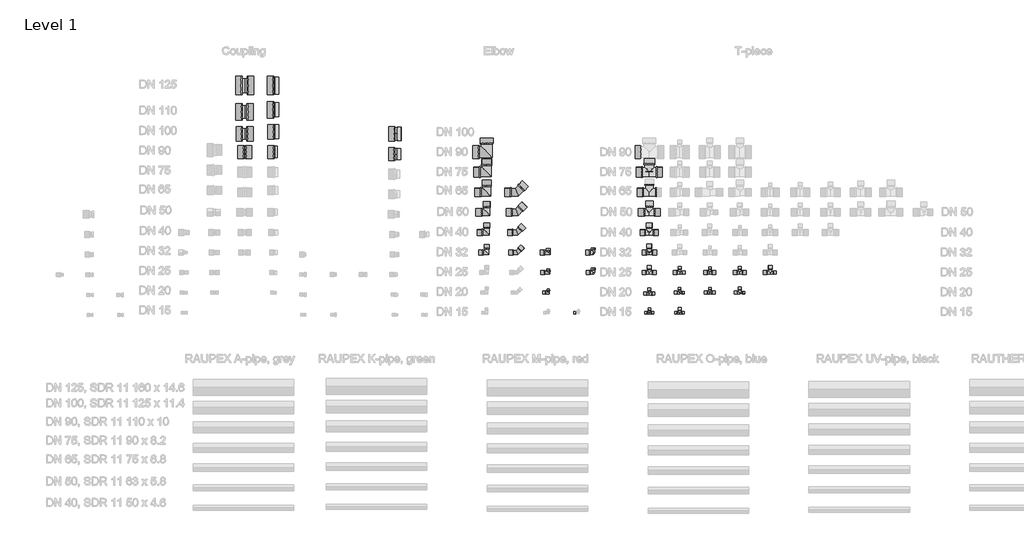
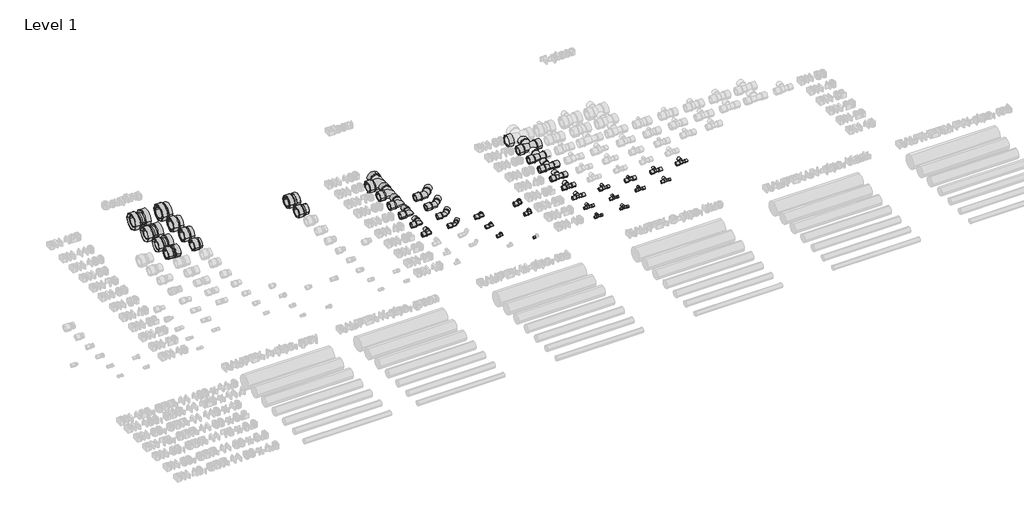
# One storey, part 4 of 16: 128 pipe fittings.
"""IFC4 building model written with IfcOpenShell, lengths in millimetres."""

from ifc_helpers import new_model, si_unit, origin, place, context, project, spatial, transform, mapped, element, save
from components import pipe_fitting_73d6fd9a, pipe_fitting_202b08bc, pipe_fitting_dee27855, pipe_fitting_80c25c59, coupling_union_655df743, coupling_union_132477e5, coupling_union_b98a8659, coupling_union_d5728b00, elbow_sdr11_lx_elbow_sdr_11_lx_b8bc8752, elbow_sdr11_lx_elbow_sdr_11_lx_6126e5dd, elbow_sdr11_lx_elbow_sdr_11_lx_f17d2660, elbow_sdr11_lx_elbow_sdr_11_lx_ce320dea, elbow_sdr11_lx_elbow_sdr_11_lx_cb8a91fe, elbow_sdr11_lx_elbow_sdr_11_lx_393a3960, elbow_sdr11_lx_elbow_sdr_11_rx_da30d1f9, elbow_sdr11_lx_elbow_sdr_11_rx_8269fb62, elbow_sdr11_lx_elbow_sdr_11_rx_9d03f633, elbow_sdr11_lx_elbow_sdr_11_rx_2fe19cfb, elbow_adapter_sdr11_lx_elbow_adapter_sdr_11_lx_d02e2b3c, elbow_adapter_sdr11_lx_elbow_adapter_sdr_11_lx_d9d460eb, elbow_adapter_sdr11_lx_elbow_adapter_sdr_11_lx_9b6015cc, elbow_adapter_with_union_nut_sdr_11_lx_9001e0a9, elbow_adapter_with_union_nut_sdr_11_lx_84a4bca8, male_adapter_external_thread_sdr11_male_adapter_rx_6bbcd7e3, male_adapter_external_thread_sdr11_male_adapter_rx_e6c9b75a, sleeve_lx_11_2e170aa1, sleeve_lx_11_3fcb8560, sleeve_lx_11_f19e3dbf, sleeve_lx_11_b9b419b6, sleeve_lx_11_e5eab1a7, sleeve_lx_11_ddfe2885, sleeve_rx_11_7b1edd19, sleeve_rx_11_d7843ee1, sleeve_rx_11_d7b6a074, sleeve_rx_11_833a9f47, sleeve_rx_11_cce1b402, sleeve_rx_11_53dfce0b, t_piece_sdr11_lx_0c2399d6, t_piece_sdr11_lx_7e9e5686, t_piece_sdr11_lx_2a0a5856, t_piece_sdr11_lx_9701a7f1, t_piece_sdr11_lx_c61b86e7, t_piece_sdr11_lx_81dca7c0, t_piece_sdr11_lx_fe109eb9, t_piece_sdr11_lx_d24ca570, t_piece_sdr11_lx_df0b7dc8, t_piece_sdr11_lx_472ff839, t_piece_sdr11_lx_571a734e, t_piece_sdr11_lx_4579e213, t_piece_sdr11_lx_62f51ed1, t_piece_sdr11_lx_d5a7428d, t_piece_sdr11_lx_t_piece_sdr11_rx_1e658908, t_piece_sdr11_lx_t_piece_sdr11_rx_ffd7d234

model = new_model("IFC4")

# Units and contexts
model_context = context("Model", 3, world=origin())
ifc_project = project(units=[si_unit("LENGTHUNIT", "METRE", prefix="MILLI")], contexts=[model_context])

# Site, building, storey
site = spatial("IfcSite", under=ifc_project)
building = spatial("IfcBuilding", under=site)
storey = spatial("IfcBuildingStorey", under=building, Name="Level 1", Elevation=0.0)

# Pipe fittings
placement = place(None, origin())
pipe_fitting_shape = pipe_fitting_73d6fd9a(model_context)
element("IfcPipeFitting", 1, ObjectType="Adapter with welding end : A welding RX", at=placement, inside=storey, context=model_context, shape_type="MappedRepresentation", body=[
    mapped(pipe_fitting_shape, transform((12403.1112925, 2700.5489138, 0.0), x_axis=(1.0, 0.0, 0.0), y_axis=(0.0, 1.0, 0.0), z_axis=(0.0, 0.0, 1.0))),
])
pipe_fitting_2_shape = pipe_fitting_202b08bc(model_context)
element("IfcPipeFitting", 2, ObjectType="Adapter with welding end : A welding RX", at=placement, inside=storey, context=model_context, shape_type="MappedRepresentation", body=[
    mapped(pipe_fitting_2_shape, transform((12403.1112925, 2040.5489138, 0.0), x_axis=(1.0, 0.0, 0.0), y_axis=(0.0, 1.0, 0.0), z_axis=(0.0, 0.0, 1.0))),
])
pipe_fitting_3_shape = pipe_fitting_dee27855(model_context)
element("IfcPipeFitting", 3, ObjectType="Adapter with welding end : A welding RX", at=placement, inside=storey, context=model_context, shape_type="MappedRepresentation", body=[
    mapped(pipe_fitting_3_shape, transform((12403.1112925, 2240.5489138, 0.0), x_axis=(1.0, 0.0, 0.0), y_axis=(0.0, 1.0, 0.0), z_axis=(0.0, 0.0, 1.0))),
])
pipe_fitting_4_shape = pipe_fitting_80c25c59(model_context)
element("IfcPipeFitting", 4, ObjectType="Adapter with welding end : A welding RX", at=placement, inside=storey, context=model_context, shape_type="MappedRepresentation", body=[
    mapped(pipe_fitting_4_shape, transform((12403.1112925, 2460.5489138, 0.0), x_axis=(1.0, 0.0, 0.0), y_axis=(0.0, 1.0, 0.0), z_axis=(0.0, 0.0, 1.0))),
])
coupling_union_shape = coupling_union_655df743(model_context)
element("IfcPipeFitting", 5, ObjectType="Coupling union : C EQ SDR11 RX", at=placement, inside=storey, context=model_context, shape_type="MappedRepresentation", body=[
    mapped(coupling_union_shape, transform((12103.1112925, 2700.5489138, 0.0), x_axis=(1.0, 0.0, 0.0), y_axis=(0.0, 1.0, 0.0), z_axis=(0.0, 0.0, 1.0))),
])
coupling_union_2_shape = coupling_union_132477e5(model_context)
element("IfcPipeFitting", 6, ObjectType="Coupling union : C EQ SDR11 RX", at=placement, inside=storey, context=model_context, shape_type="MappedRepresentation", body=[
    mapped(coupling_union_2_shape, transform((12103.1112925, 2040.5489138, 0.0), x_axis=(1.0, 0.0, 0.0), y_axis=(0.0, 1.0, 0.0), z_axis=(0.0, 0.0, 1.0))),
])
coupling_union_3_shape = coupling_union_b98a8659(model_context)
element("IfcPipeFitting", 7, ObjectType="Coupling union : C EQ SDR11 RX", at=placement, inside=storey, context=model_context, shape_type="MappedRepresentation", body=[
    mapped(coupling_union_3_shape, transform((12103.1112925, 2220.5489138, 0.0), x_axis=(1.0, 0.0, 0.0), y_axis=(0.0, 1.0, 0.0), z_axis=(0.0, 0.0, 1.0))),
])
coupling_union_4_shape = coupling_union_d5728b00(model_context)
element("IfcPipeFitting", 8, ObjectType="Coupling union : C EQ SDR11 RX", at=placement, inside=storey, context=model_context, shape_type="MappedRepresentation", body=[
    mapped(coupling_union_4_shape, transform((12103.1112925, 2440.5489138, 0.0), x_axis=(1.0, 0.0, 0.0), y_axis=(0.0, 1.0, 0.0), z_axis=(0.0, 0.0, 1.0))),
])
elbow_sdr11_lx_elbow_sdr_11_lx_shape = elbow_sdr11_lx_elbow_sdr_11_lx_b8bc8752(model_context)
element("IfcPipeFitting", 9, ObjectType="Elbow SDR11 LX : Elbow SDR 11 LX", at=placement, inside=storey, context=model_context, shape_type="MappedRepresentation", body=[
    mapped(elbow_sdr11_lx_elbow_sdr_11_lx_shape, transform((14509.6158086, 1040.5489138, 0.0), x_axis=(1.0, 0.0, 0.0), y_axis=(0.0, 1.0, 0.0), z_axis=(0.0, 0.0, 1.0))),
])
elbow_sdr11_lx_elbow_sdr_11_lx_2_shape = elbow_sdr11_lx_elbow_sdr_11_lx_6126e5dd(model_context)
element("IfcPipeFitting", 10, ObjectType="Elbow SDR11 LX : Elbow SDR 11 LX", at=placement, inside=storey, context=model_context, shape_type="MappedRepresentation", body=[
    mapped(elbow_sdr11_lx_elbow_sdr_11_lx_2_shape, transform((14509.6158086, 1240.5489138, 0.0), x_axis=(1.0, 0.0, 0.0), y_axis=(0.0, 1.0, 0.0), z_axis=(0.0, 0.0, 1.0))),
])
elbow_sdr11_lx_elbow_sdr_11_lx_3_shape = elbow_sdr11_lx_elbow_sdr_11_lx_f17d2660(model_context)
element("IfcPipeFitting", 11, ObjectType="Elbow SDR11 LX : Elbow SDR 11 LX", at=placement, inside=storey, context=model_context, shape_type="MappedRepresentation", body=[
    mapped(elbow_sdr11_lx_elbow_sdr_11_lx_3_shape, transform((14509.6158086, 1440.5489138, 0.0), x_axis=(1.0, 0.0, 0.0), y_axis=(0.0, 1.0, 0.0), z_axis=(0.0, 0.0, 1.0))),
])
elbow_sdr11_lx_elbow_sdr_11_lx_4_shape = elbow_sdr11_lx_elbow_sdr_11_lx_ce320dea(model_context)
element("IfcPipeFitting", 12, ObjectType="Elbow SDR11 LX : Elbow SDR 11 LX", at=placement, inside=storey, context=model_context, shape_type="MappedRepresentation", body=[
    mapped(elbow_sdr11_lx_elbow_sdr_11_lx_4_shape, transform((14809.6158086, 1040.5489138, 0.0), x_axis=(1.0, 0.0, 0.0), y_axis=(0.0, 1.0, 0.0), z_axis=(0.0, 0.0, 1.0))),
])
elbow_sdr11_lx_elbow_sdr_11_lx_5_shape = elbow_sdr11_lx_elbow_sdr_11_lx_cb8a91fe(model_context)
element("IfcPipeFitting", 13, ObjectType="Elbow SDR11 LX : Elbow SDR 11 LX", at=placement, inside=storey, context=model_context, shape_type="MappedRepresentation", body=[
    mapped(elbow_sdr11_lx_elbow_sdr_11_lx_5_shape, transform((14809.6158086, 1240.5489138, 0.0), x_axis=(1.0, 0.0, 0.0), y_axis=(0.0, 1.0, 0.0), z_axis=(0.0, 0.0, 1.0))),
])
elbow_sdr11_lx_elbow_sdr_11_lx_6_shape = elbow_sdr11_lx_elbow_sdr_11_lx_393a3960(model_context)
element("IfcPipeFitting", 14, ObjectType="Elbow SDR11 LX : Elbow SDR 11 LX", at=placement, inside=storey, context=model_context, shape_type="MappedRepresentation", body=[
    mapped(elbow_sdr11_lx_elbow_sdr_11_lx_6_shape, transform((14809.6158086, 1440.5489138, 0.0), x_axis=(1.0, 0.0, 0.0), y_axis=(0.0, 1.0, 0.0), z_axis=(0.0, 0.0, 1.0))),
])
elbow_sdr11_lx_elbow_sdr_11_rx_shape = elbow_sdr11_lx_elbow_sdr_11_rx_da30d1f9(model_context)
element("IfcPipeFitting", 15, ObjectType="Elbow SDR11 LX : Elbow SDR 11 RX", at=placement, inside=storey, context=model_context, shape_type="MappedRepresentation", body=[
    mapped(elbow_sdr11_lx_elbow_sdr_11_rx_shape, transform((14509.6158086, 1640.5489138, 0.0), x_axis=(1.0, 0.0, 0.0), y_axis=(0.0, 1.0, 0.0), z_axis=(0.0, 0.0, 1.0))),
])
elbow_sdr11_lx_elbow_sdr_11_rx_2_shape = elbow_sdr11_lx_elbow_sdr_11_rx_8269fb62(model_context)
element("IfcPipeFitting", 16, ObjectType="Elbow SDR11 LX : Elbow SDR 11 RX", at=placement, inside=storey, context=model_context, shape_type="MappedRepresentation", body=[
    mapped(elbow_sdr11_lx_elbow_sdr_11_rx_2_shape, transform((14509.6158086, 1840.5489138, 0.0), x_axis=(1.0, 0.0, 0.0), y_axis=(0.0, 1.0, 0.0), z_axis=(0.0, 0.0, 1.0))),
])
elbow_sdr11_lx_elbow_sdr_11_rx_3_shape = elbow_sdr11_lx_elbow_sdr_11_rx_9d03f633(model_context)
element("IfcPipeFitting", 17, ObjectType="Elbow SDR11 LX : Elbow SDR 11 RX", at=placement, inside=storey, context=model_context, shape_type="MappedRepresentation", body=[
    mapped(elbow_sdr11_lx_elbow_sdr_11_rx_3_shape, transform((14509.6158086, 2040.5489138, 0.0), x_axis=(1.0, 0.0, 0.0), y_axis=(0.0, 1.0, 0.0), z_axis=(0.0, 0.0, 1.0))),
])
elbow_sdr11_lx_elbow_sdr_11_rx_4_shape = elbow_sdr11_lx_elbow_sdr_11_rx_2fe19cfb(model_context)
element("IfcPipeFitting", 18, ObjectType="Elbow SDR11 LX : Elbow SDR 11 RX", at=placement, inside=storey, context=model_context, shape_type="MappedRepresentation", body=[
    mapped(elbow_sdr11_lx_elbow_sdr_11_rx_4_shape, transform((14809.6158086, 1640.5489138, 0.0), x_axis=(1.0, 0.0, 0.0), y_axis=(0.0, 1.0, 0.0), z_axis=(0.0, 0.0, 1.0))),
])
elbow_adapter_sdr11_lx_elbow_adapter_sdr_11_lx_shape = elbow_adapter_sdr11_lx_elbow_adapter_sdr_11_lx_d02e2b3c(model_context)
element("IfcPipeFitting", 19, ObjectType="Elbow adapter SDR11 LX : Elbow adapter SDR 11 LX", at=placement, inside=storey, context=model_context, shape_type="MappedRepresentation", body=[
    mapped(elbow_adapter_sdr11_lx_elbow_adapter_sdr_11_lx_shape, transform((15121.1751687, 640.5489138, 0.0), x_axis=(1.0, 0.0, 0.0), y_axis=(0.0, 1.0, 0.0), z_axis=(0.0, 0.0, 1.0))),
])
elbow_adapter_sdr11_lx_elbow_adapter_sdr_11_lx_2_shape = elbow_adapter_sdr11_lx_elbow_adapter_sdr_11_lx_d9d460eb(model_context)
element("IfcPipeFitting", 20, ObjectType="Elbow adapter SDR11 LX : Elbow adapter SDR 11 LX", at=placement, inside=storey, context=model_context, shape_type="MappedRepresentation", body=[
    mapped(elbow_adapter_sdr11_lx_elbow_adapter_sdr_11_lx_2_shape, transform((15121.1751687, 840.5489138, 0.0), x_axis=(1.0, 0.0, 0.0), y_axis=(0.0, 1.0, 0.0), z_axis=(0.0, 0.0, 1.0))),
])
elbow_adapter_sdr11_lx_elbow_adapter_sdr_11_lx_3_shape = elbow_adapter_sdr11_lx_elbow_adapter_sdr_11_lx_9b6015cc(model_context)
element("IfcPipeFitting", 21, ObjectType="Elbow adapter SDR11 LX : Elbow adapter SDR 11 LX", at=placement, inside=storey, context=model_context, shape_type="MappedRepresentation", body=[
    mapped(elbow_adapter_sdr11_lx_elbow_adapter_sdr_11_lx_3_shape, transform((15121.1751687, 1040.5489138, 0.0), x_axis=(1.0, 0.0, 0.0), y_axis=(0.0, 1.0, 0.0), z_axis=(0.0, 0.0, 1.0))),
])
elbow_adapter_with_union_nut_sdr_11_lx_shape = elbow_adapter_with_union_nut_sdr_11_lx_9001e0a9(model_context)
element("IfcPipeFitting", 22, ObjectType="Elbow adapter with union nut SDR11 LX  : Elbow adapter with union nut SDR 11 LX", at=placement, inside=storey, context=model_context, shape_type="MappedRepresentation", body=[
    mapped(elbow_adapter_with_union_nut_sdr_11_lx_shape, transform((15569.0164475, 840.5489138, 0.0), x_axis=(1.0, 0.0, 0.0), y_axis=(0.0, 1.0, 0.0), z_axis=(0.0, 0.0, 1.0))),
])
elbow_adapter_with_union_nut_sdr_11_lx_2_shape = elbow_adapter_with_union_nut_sdr_11_lx_84a4bca8(model_context)
element("IfcPipeFitting", 23, ObjectType="Elbow adapter with union nut SDR11 LX  : Elbow adapter with union nut SDR 11 LX", at=placement, inside=storey, context=model_context, shape_type="MappedRepresentation", body=[
    mapped(elbow_adapter_with_union_nut_sdr_11_lx_2_shape, transform((15569.0164475, 1040.5489138, 0.0), x_axis=(1.0, 0.0, 0.0), y_axis=(0.0, 1.0, 0.0), z_axis=(0.0, 0.0, 1.0))),
])
male_adapter_external_thread_sdr11_male_adapter_rx_shape = male_adapter_external_thread_sdr11_male_adapter_rx_6bbcd7e3(model_context)
element("IfcPipeFitting", 24, ObjectType="Male adapter external thread SDR11 : Male adapter RX", at=placement, inside=storey, context=model_context, shape_type="MappedRepresentation", body=[
    mapped(male_adapter_external_thread_sdr11_male_adapter_rx_shape, transform((13596.8014725, 2020.5489138, 0.0), x_axis=(1.0, 0.0, 0.0), y_axis=(0.0, 1.0, 0.0), z_axis=(0.0, 0.0, 1.0))),
])
male_adapter_external_thread_sdr11_male_adapter_rx_2_shape = male_adapter_external_thread_sdr11_male_adapter_rx_e6c9b75a(model_context)
element("IfcPipeFitting", 25, ObjectType="Male adapter external thread SDR11 : Male adapter RX", at=placement, inside=storey, context=model_context, shape_type="MappedRepresentation", body=[
    mapped(male_adapter_external_thread_sdr11_male_adapter_rx_2_shape, transform((13596.8014725, 2220.5489138, 0.0), x_axis=(1.0, 0.0, 0.0), y_axis=(0.0, 1.0, 0.0), z_axis=(0.0, 0.0, 1.0))),
])
sleeve_lx_11_shape = sleeve_lx_11_2e170aa1(model_context)
element("IfcPipeFitting", 26, ObjectType="Sleeve : LX 11", at=placement, inside=storey, context=model_context, shape_type="MappedRepresentation", body=[
    mapped(sleeve_lx_11_shape, transform((15048.1751687, 840.5489138, 0.0), x_axis=(1.0, 0.0, 0.0), y_axis=(0.0, 1.0, 0.0), z_axis=(0.0, 0.0, 1.0))),
])
element("IfcPipeFitting", 27, ObjectType="Sleeve : LX 11", at=placement, inside=storey, context=model_context, shape_type="MappedRepresentation", body=[
    mapped(sleeve_lx_11_shape, transform((15497.5164475, 840.5489138, 0.0), x_axis=(1.0, 0.0, 0.0), y_axis=(0.0, 1.0, 0.0), z_axis=(0.0, 0.0, 1.0))),
])
element("IfcPipeFitting", 28, ObjectType="Sleeve : LX 11", at=placement, inside=storey, context=model_context, shape_type="MappedRepresentation", body=[
    mapped(sleeve_lx_11_shape, transform((16056.7141419, 840.5489138, 0.0), x_axis=(1.0, 0.0, 0.0), y_axis=(0.0, 1.0, 0.0), z_axis=(0.0, 0.0, 1.0))),
])
element("IfcPipeFitting", 29, ObjectType="Sleeve : LX 11", at=placement, inside=storey, context=model_context, shape_type="MappedRepresentation", body=[
    mapped(sleeve_lx_11_shape, transform((16126.2141419, 875.5489138, 0.0), x_axis=(0.0, 1.0, 0.0), y_axis=(-1.0, 0.0, 0.0), z_axis=(0.0, 0.0, 1.0))),
])
element("IfcPipeFitting", 30, ObjectType="Sleeve : LX 11", at=placement, inside=storey, context=model_context, shape_type="MappedRepresentation", body=[
    mapped(sleeve_lx_11_shape, transform((16160.7141419, 840.5489138, 0.0), x_axis=(1.0, 0.0, 0.0), y_axis=(0.0, 1.0, 0.0), z_axis=(0.0, 0.0, 1.0))),
])
element("IfcPipeFitting", 31, ObjectType="Sleeve : LX 11", at=placement, inside=storey, context=model_context, shape_type="MappedRepresentation", body=[
    mapped(sleeve_lx_11_shape, transform((16361.4141419, 840.5489138, 0.0), x_axis=(1.0, 0.0, 0.0), y_axis=(0.0, 1.0, 0.0), z_axis=(0.0, 0.0, 1.0))),
])
element("IfcPipeFitting", 32, ObjectType="Sleeve : LX 11", at=placement, inside=storey, context=model_context, shape_type="MappedRepresentation", body=[
    mapped(sleeve_lx_11_shape, transform((16665.2141419, 840.5489138, 0.0), x_axis=(1.0, 0.0, 0.0), y_axis=(0.0, 1.0, 0.0), z_axis=(0.0, 0.0, 1.0))),
])
element("IfcPipeFitting", 33, ObjectType="Sleeve : LX 11", at=placement, inside=storey, context=model_context, shape_type="MappedRepresentation", body=[
    mapped(sleeve_lx_11_shape, transform((16752.2141419, 840.5489138, 0.0), x_axis=(1.0, 0.0, 0.0), y_axis=(0.0, 1.0, 0.0), z_axis=(0.0, 0.0, 1.0))),
])
element("IfcPipeFitting", 34, ObjectType="Sleeve : LX 11", at=placement, inside=storey, context=model_context, shape_type="MappedRepresentation", body=[
    mapped(sleeve_lx_11_shape, transform((16961.7141419, 840.5489138, 0.0), x_axis=(1.0, 0.0, 0.0), y_axis=(0.0, 1.0, 0.0), z_axis=(0.0, 0.0, 1.0))),
])
element("IfcPipeFitting", 35, ObjectType="Sleeve : LX 11", at=placement, inside=storey, context=model_context, shape_type="MappedRepresentation", body=[
    mapped(sleeve_lx_11_shape, transform((17055.7141419, 840.5489138, 0.0), x_axis=(1.0, 0.0, 0.0), y_axis=(0.0, 1.0, 0.0), z_axis=(0.0, 0.0, 1.0))),
])
element("IfcPipeFitting", 36, ObjectType="Sleeve : LX 11", at=placement, inside=storey, context=model_context, shape_type="MappedRepresentation", body=[
    mapped(sleeve_lx_11_shape, transform((17256.7141419, 840.5489138, 0.0), x_axis=(1.0, 0.0, 0.0), y_axis=(0.0, 1.0, 0.0), z_axis=(0.0, 0.0, 1.0))),
])
element("IfcPipeFitting", 37, ObjectType="Sleeve : LX 11", at=placement, inside=storey, context=model_context, shape_type="MappedRepresentation", body=[
    mapped(sleeve_lx_11_shape, transform((17326.2141419, 875.9489138, 0.0), x_axis=(0.0, 1.0, 0.0), y_axis=(-1.0, 0.0, 0.0), z_axis=(0.0, 0.0, 1.0))),
])
sleeve_lx_11_2_shape = sleeve_lx_11_3fcb8560(model_context)
element("IfcPipeFitting", 38, ObjectType="Sleeve : LX 11", at=placement, inside=storey, context=model_context, shape_type="MappedRepresentation", body=[
    mapped(sleeve_lx_11_2_shape, transform((15373.1751687, 440.5489138, 0.0), x_axis=(1.0, 0.0, 0.0), y_axis=(0.0, 1.0, 0.0), z_axis=(0.0, 0.0, 1.0))),
])
element("IfcPipeFitting", 39, ObjectType="Sleeve : LX 11", at=placement, inside=storey, context=model_context, shape_type="MappedRepresentation", body=[
    mapped(sleeve_lx_11_2_shape, transform((16081.2141419, 440.5489138, 0.0), x_axis=(1.0, 0.0, 0.0), y_axis=(0.0, 1.0, 0.0), z_axis=(0.0, 0.0, 1.0))),
])
element("IfcPipeFitting", 40, ObjectType="Sleeve : LX 11", at=placement, inside=storey, context=model_context, shape_type="MappedRepresentation", body=[
    mapped(sleeve_lx_11_2_shape, transform((16126.2141419, 468.9489138, 0.0), x_axis=(0.0, 1.0, 0.0), y_axis=(-1.0, 0.0, 0.0), z_axis=(0.0, 0.0, 1.0))),
])
element("IfcPipeFitting", 41, ObjectType="Sleeve : LX 11", at=placement, inside=storey, context=model_context, shape_type="MappedRepresentation", body=[
    mapped(sleeve_lx_11_2_shape, transform((16151.2141419, 440.5489138, 0.0), x_axis=(1.0, 0.0, 0.0), y_axis=(0.0, 1.0, 0.0), z_axis=(0.0, 0.0, 1.0))),
])
element("IfcPipeFitting", 42, ObjectType="Sleeve : LX 11", at=placement, inside=storey, context=model_context, shape_type="MappedRepresentation", body=[
    mapped(sleeve_lx_11_2_shape, transform((16426.2141419, 671.6489138, 0.0), x_axis=(0.0, 1.0, 0.0), y_axis=(-1.0, 0.0, 0.0), z_axis=(0.0, 0.0, 1.0))),
])
element("IfcPipeFitting", 43, ObjectType="Sleeve : LX 11", at=placement, inside=storey, context=model_context, shape_type="MappedRepresentation", body=[
    mapped(sleeve_lx_11_2_shape, transform((16451.2141419, 640.5489138, 0.0), x_axis=(1.0, 0.0, 0.0), y_axis=(0.0, 1.0, 0.0), z_axis=(0.0, 0.0, 1.0))),
])
element("IfcPipeFitting", 44, ObjectType="Sleeve : LX 11", at=placement, inside=storey, context=model_context, shape_type="MappedRepresentation", body=[
    mapped(sleeve_lx_11_2_shape, transform((16726.2141419, 671.6489138, 0.0), x_axis=(0.0, 1.0, 0.0), y_axis=(-1.0, 0.0, 0.0), z_axis=(0.0, 0.0, 1.0))),
])
element("IfcPipeFitting", 45, ObjectType="Sleeve : LX 11", at=placement, inside=storey, context=model_context, shape_type="MappedRepresentation", body=[
    mapped(sleeve_lx_11_2_shape, transform((16726.2141419, 875.5489138, 0.0), x_axis=(0.0, 1.0, 0.0), y_axis=(-1.0, 0.0, 0.0), z_axis=(0.0, 0.0, 1.0))),
])
element("IfcPipeFitting", 46, ObjectType="Sleeve : LX 11", at=placement, inside=storey, context=model_context, shape_type="MappedRepresentation", body=[
    mapped(sleeve_lx_11_2_shape, transform((16377.7141419, 440.5489138, 0.0), x_axis=(1.0, 0.0, 0.0), y_axis=(0.0, 1.0, 0.0), z_axis=(0.0, 0.0, 1.0))),
])
element("IfcPipeFitting", 47, ObjectType="Sleeve : LX 11", at=placement, inside=storey, context=model_context, shape_type="MappedRepresentation", body=[
    mapped(sleeve_lx_11_2_shape, transform((16454.7141419, 440.5489138, 0.0), x_axis=(1.0, 0.0, 0.0), y_axis=(0.0, 1.0, 0.0), z_axis=(0.0, 0.0, 1.0))),
])
element("IfcPipeFitting", 48, ObjectType="Sleeve : LX 11", at=placement, inside=storey, context=model_context, shape_type="MappedRepresentation", body=[
    mapped(sleeve_lx_11_2_shape, transform((17054.2141419, 640.5489138, 0.0), x_axis=(1.0, 0.0, 0.0), y_axis=(0.0, 1.0, 0.0), z_axis=(0.0, 0.0, 1.0))),
])
sleeve_lx_11_3_shape = sleeve_lx_11_f19e3dbf(model_context)
element("IfcPipeFitting", 49, ObjectType="Sleeve : LX 11", at=placement, inside=storey, context=model_context, shape_type="MappedRepresentation", body=[
    mapped(sleeve_lx_11_3_shape, transform((15066.1751687, 640.5489138, 0.0), x_axis=(1.0, 0.0, 0.0), y_axis=(0.0, 1.0, 0.0), z_axis=(0.0, 0.0, 1.0))),
])
element("IfcPipeFitting", 50, ObjectType="Sleeve : LX 11", at=placement, inside=storey, context=model_context, shape_type="MappedRepresentation", body=[
    mapped(sleeve_lx_11_3_shape, transform((16070.7141419, 630.5489138, 0.0), x_axis=(1.0, 0.0, 0.0), y_axis=(0.0, 1.0, 0.0), z_axis=(0.0, 0.0, 1.0))),
])
element("IfcPipeFitting", 51, ObjectType="Sleeve : LX 11", at=placement, inside=storey, context=model_context, shape_type="MappedRepresentation", body=[
    mapped(sleeve_lx_11_3_shape, transform((16126.2141419, 661.6489138, 0.0), x_axis=(0.0, 1.0, 0.0), y_axis=(-1.0, 0.0, 0.0), z_axis=(0.0, 0.0, 1.0))),
])
element("IfcPipeFitting", 52, ObjectType="Sleeve : LX 11", at=placement, inside=storey, context=model_context, shape_type="MappedRepresentation", body=[
    mapped(sleeve_lx_11_3_shape, transform((16154.7141419, 630.5489138, 0.0), x_axis=(1.0, 0.0, 0.0), y_axis=(0.0, 1.0, 0.0), z_axis=(0.0, 0.0, 1.0))),
])
element("IfcPipeFitting", 53, ObjectType="Sleeve : LX 11", at=placement, inside=storey, context=model_context, shape_type="MappedRepresentation", body=[
    mapped(sleeve_lx_11_3_shape, transform((16374.2141419, 640.5489138, 0.0), x_axis=(1.0, 0.0, 0.0), y_axis=(0.0, 1.0, 0.0), z_axis=(0.0, 0.0, 1.0))),
])
element("IfcPipeFitting", 54, ObjectType="Sleeve : LX 11", at=placement, inside=storey, context=model_context, shape_type="MappedRepresentation", body=[
    mapped(sleeve_lx_11_3_shape, transform((16426.2141419, 874.5489138, 0.0), x_axis=(0.0, 1.0, 0.0), y_axis=(-1.0, 0.0, 0.0), z_axis=(0.0, 0.0, 1.0))),
])
element("IfcPipeFitting", 55, ObjectType="Sleeve : LX 11", at=placement, inside=storey, context=model_context, shape_type="MappedRepresentation", body=[
    mapped(sleeve_lx_11_3_shape, transform((16455.0141419, 840.5489138, 0.0), x_axis=(1.0, 0.0, 0.0), y_axis=(0.0, 1.0, 0.0), z_axis=(0.0, 0.0, 1.0))),
])
element("IfcPipeFitting", 56, ObjectType="Sleeve : LX 11", at=placement, inside=storey, context=model_context, shape_type="MappedRepresentation", body=[
    mapped(sleeve_lx_11_3_shape, transform((16673.7141419, 640.5489138, 0.0), x_axis=(1.0, 0.0, 0.0), y_axis=(0.0, 1.0, 0.0), z_axis=(0.0, 0.0, 1.0))),
])
element("IfcPipeFitting", 57, ObjectType="Sleeve : LX 11", at=placement, inside=storey, context=model_context, shape_type="MappedRepresentation", body=[
    mapped(sleeve_lx_11_3_shape, transform((16751.7141419, 640.5489138, 0.0), x_axis=(1.0, 0.0, 0.0), y_axis=(0.0, 1.0, 0.0), z_axis=(0.0, 0.0, 1.0))),
])
element("IfcPipeFitting", 58, ObjectType="Sleeve : LX 11", at=placement, inside=storey, context=model_context, shape_type="MappedRepresentation", body=[
    mapped(sleeve_lx_11_3_shape, transform((17026.2141419, 875.5489138, 0.0), x_axis=(0.0, 1.0, 0.0), y_axis=(-1.0, 0.0, 0.0), z_axis=(0.0, 0.0, 1.0))),
])
element("IfcPipeFitting", 59, ObjectType="Sleeve : LX 11", at=placement, inside=storey, context=model_context, shape_type="MappedRepresentation", body=[
    mapped(sleeve_lx_11_3_shape, transform((16426.2141419, 465.9489138, 0.0), x_axis=(0.0, 1.0, 0.0), y_axis=(-1.0, 0.0, 0.0), z_axis=(0.0, 0.0, 1.0))),
])
element("IfcPipeFitting", 60, ObjectType="Sleeve : LX 11", at=placement, inside=storey, context=model_context, shape_type="MappedRepresentation", body=[
    mapped(sleeve_lx_11_3_shape, transform((16971.2141419, 640.5489138, 0.0), x_axis=(1.0, 0.0, 0.0), y_axis=(0.0, 1.0, 0.0), z_axis=(0.0, 0.0, 1.0))),
])
element("IfcPipeFitting", 61, ObjectType="Sleeve : LX 11", at=placement, inside=storey, context=model_context, shape_type="MappedRepresentation", body=[
    mapped(sleeve_lx_11_3_shape, transform((17026.2141419, 672.0489138, 0.0), x_axis=(0.0, 1.0, 0.0), y_axis=(-1.0, 0.0, 0.0), z_axis=(0.0, 0.0, 1.0))),
])
element("IfcPipeFitting", 62, ObjectType="Sleeve : LX 11", at=placement, inside=storey, context=model_context, shape_type="MappedRepresentation", body=[
    mapped(sleeve_lx_11_3_shape, transform((17359.7141419, 840.5489138, 0.0), x_axis=(1.0, 0.0, 0.0), y_axis=(0.0, 1.0, 0.0), z_axis=(0.0, 0.0, 1.0))),
])
sleeve_lx_11_4_shape = sleeve_lx_11_b9b419b6(model_context)
element("IfcPipeFitting", 63, ObjectType="Sleeve : LX 11", at=placement, inside=storey, context=model_context, shape_type="MappedRepresentation", body=[
    mapped(sleeve_lx_11_4_shape, transform((15041.6751687, 1040.5489138, 0.0), x_axis=(1.0, 0.0, 0.0), y_axis=(0.0, 1.0, 0.0), z_axis=(0.0, 0.0, 1.0))),
])
element("IfcPipeFitting", 64, ObjectType="Sleeve : LX 11", at=placement, inside=storey, context=model_context, shape_type="MappedRepresentation", body=[
    mapped(sleeve_lx_11_4_shape, transform((15493.5164475, 1040.5489138, 0.0), x_axis=(1.0, 0.0, 0.0), y_axis=(0.0, 1.0, 0.0), z_axis=(0.0, 0.0, 1.0))),
])
element("IfcPipeFitting", 65, ObjectType="Sleeve : LX 11", at=placement, inside=storey, context=model_context, shape_type="MappedRepresentation", body=[
    mapped(sleeve_lx_11_4_shape, transform((14429.4158086, 1040.5489138, 0.0), x_axis=(1.0, 0.0, 0.0), y_axis=(0.0, 1.0, 0.0), z_axis=(0.0, 0.0, 1.0))),
])
element("IfcPipeFitting", 66, ObjectType="Sleeve : LX 11", at=placement, inside=storey, context=model_context, shape_type="MappedRepresentation", body=[
    mapped(sleeve_lx_11_4_shape, transform((14509.6158086, 1120.7489138, 0.0), x_axis=(0.0, -1.0, 0.0), y_axis=(1.0, 0.0, 0.0), z_axis=(0.0, 0.0, 1.0))),
])
element("IfcPipeFitting", 67, ObjectType="Sleeve : LX 11", at=placement, inside=storey, context=model_context, shape_type="MappedRepresentation", body=[
    mapped(sleeve_lx_11_4_shape, transform((14729.4158086, 1040.5489138, 0.0), x_axis=(1.0, 0.0, 0.0), y_axis=(0.0, 1.0, 0.0), z_axis=(0.0, 0.0, 1.0))),
])
element("IfcPipeFitting", 68, ObjectType="Sleeve : LX 11", at=placement, inside=storey, context=model_context, shape_type="MappedRepresentation", body=[
    mapped(sleeve_lx_11_4_shape, transform((14866.3257725, 1097.2588777, 0.0), x_axis=(-0.707106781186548, -0.707106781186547, 0.0), y_axis=(0.707106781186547, -0.707106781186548, 0.0), z_axis=(0.0, 0.0, 1.0))),
])
element("IfcPipeFitting", 69, ObjectType="Sleeve : LX 11", at=placement, inside=storey, context=model_context, shape_type="MappedRepresentation", body=[
    mapped(sleeve_lx_11_4_shape, transform((16054.9141419, 1040.5489138, 0.0), x_axis=(1.0, 0.0, 0.0), y_axis=(0.0, 1.0, 0.0), z_axis=(0.0, 0.0, 1.0))),
])
element("IfcPipeFitting", 70, ObjectType="Sleeve : LX 11", at=placement, inside=storey, context=model_context, shape_type="MappedRepresentation", body=[
    mapped(sleeve_lx_11_4_shape, transform((16126.2141419, 1085.8489138, 0.0), x_axis=(0.0, 1.0, 0.0), y_axis=(-1.0, 0.0, 0.0), z_axis=(0.0, 0.0, 1.0))),
])
element("IfcPipeFitting", 71, ObjectType="Sleeve : LX 11", at=placement, inside=storey, context=model_context, shape_type="MappedRepresentation", body=[
    mapped(sleeve_lx_11_4_shape, transform((16160.5141419, 1040.5489138, 0.0), x_axis=(1.0, 0.0, 0.0), y_axis=(0.0, 1.0, 0.0), z_axis=(0.0, 0.0, 1.0))),
])
sleeve_lx_11_5_shape = sleeve_lx_11_e5eab1a7(model_context)
element("IfcPipeFitting", 72, ObjectType="Sleeve : LX 11", at=placement, inside=storey, context=model_context, shape_type="MappedRepresentation", body=[
    mapped(sleeve_lx_11_5_shape, transform((14417.1158086, 1240.5489138, 0.0), x_axis=(1.0, 0.0, 0.0), y_axis=(0.0, 1.0, 0.0), z_axis=(0.0, 0.0, 1.0))),
])
element("IfcPipeFitting", 73, ObjectType="Sleeve : LX 11", at=placement, inside=storey, context=model_context, shape_type="MappedRepresentation", body=[
    mapped(sleeve_lx_11_5_shape, transform((14509.6158086, 1333.0489138, 0.0), x_axis=(0.0, -1.0, 0.0), y_axis=(1.0, 0.0, 0.0), z_axis=(0.0, 0.0, 1.0))),
])
element("IfcPipeFitting", 74, ObjectType="Sleeve : LX 11", at=placement, inside=storey, context=model_context, shape_type="MappedRepresentation", body=[
    mapped(sleeve_lx_11_5_shape, transform((14717.1158086, 1240.5489138, 0.0), x_axis=(1.0, 0.0, 0.0), y_axis=(0.0, 1.0, 0.0), z_axis=(0.0, 0.0, 1.0))),
])
element("IfcPipeFitting", 75, ObjectType="Sleeve : LX 11", at=placement, inside=storey, context=model_context, shape_type="MappedRepresentation", body=[
    mapped(sleeve_lx_11_5_shape, transform((14875.0231859, 1305.9562911, 0.0), x_axis=(-0.707106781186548, -0.707106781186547, 0.0), y_axis=(0.707106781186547, -0.707106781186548, 0.0), z_axis=(0.0, 0.0, 1.0))),
])
element("IfcPipeFitting", 76, ObjectType="Sleeve : LX 11", at=placement, inside=storey, context=model_context, shape_type="MappedRepresentation", body=[
    mapped(sleeve_lx_11_5_shape, transform((16036.4141419, 1240.5489138, 0.0), x_axis=(1.0, 0.0, 0.0), y_axis=(0.0, 1.0, 0.0), z_axis=(0.0, 0.0, 1.0))),
])
element("IfcPipeFitting", 77, ObjectType="Sleeve : LX 11", at=placement, inside=storey, context=model_context, shape_type="MappedRepresentation", body=[
    mapped(sleeve_lx_11_5_shape, transform((16126.2141419, 1289.7489138, 0.0), x_axis=(0.0, 1.0, 0.0), y_axis=(-1.0, 0.0, 0.0), z_axis=(0.0, 0.0, 1.0))),
])
element("IfcPipeFitting", 78, ObjectType="Sleeve : LX 11", at=placement, inside=storey, context=model_context, shape_type="MappedRepresentation", body=[
    mapped(sleeve_lx_11_5_shape, transform((16172.0141419, 1240.5489138, 0.0), x_axis=(1.0, 0.0, 0.0), y_axis=(0.0, 1.0, 0.0), z_axis=(0.0, 0.0, 1.0))),
])
sleeve_lx_11_6_shape = sleeve_lx_11_ddfe2885(model_context)
element("IfcPipeFitting", 79, ObjectType="Sleeve : LX 11", at=placement, inside=storey, context=model_context, shape_type="MappedRepresentation", body=[
    mapped(sleeve_lx_11_6_shape, transform((14401.3158086, 1440.5489138, 0.0), x_axis=(1.0, 0.0, 0.0), y_axis=(0.0, 1.0, 0.0), z_axis=(0.0, 0.0, 1.0))),
])
element("IfcPipeFitting", 80, ObjectType="Sleeve : LX 11", at=placement, inside=storey, context=model_context, shape_type="MappedRepresentation", body=[
    mapped(sleeve_lx_11_6_shape, transform((14509.6158086, 1548.8489138, 0.0), x_axis=(0.0, -1.0, 0.0), y_axis=(1.0, 0.0, 0.0), z_axis=(0.0, 0.0, 1.0))),
])
element("IfcPipeFitting", 81, ObjectType="Sleeve : LX 11", at=placement, inside=storey, context=model_context, shape_type="MappedRepresentation", body=[
    mapped(sleeve_lx_11_6_shape, transform((14701.3158086, 1440.5489138, 0.0), x_axis=(1.0, 0.0, 0.0), y_axis=(0.0, 1.0, 0.0), z_axis=(0.0, 0.0, 1.0))),
])
element("IfcPipeFitting", 82, ObjectType="Sleeve : LX 11", at=placement, inside=storey, context=model_context, shape_type="MappedRepresentation", body=[
    mapped(sleeve_lx_11_6_shape, transform((14886.195473, 1517.1285782, 0.0), x_axis=(-0.707106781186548, -0.707106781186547, 0.0), y_axis=(0.707106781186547, -0.707106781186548, 0.0), z_axis=(0.0, 0.0, 1.0))),
])
element("IfcPipeFitting", 83, ObjectType="Sleeve : LX 11", at=placement, inside=storey, context=model_context, shape_type="MappedRepresentation", body=[
    mapped(sleeve_lx_11_6_shape, transform((16017.4141419, 1440.5489138, 0.0), x_axis=(1.0, 0.0, 0.0), y_axis=(0.0, 1.0, 0.0), z_axis=(0.0, 0.0, 1.0))),
])
element("IfcPipeFitting", 84, ObjectType="Sleeve : LX 11", at=placement, inside=storey, context=model_context, shape_type="MappedRepresentation", body=[
    mapped(sleeve_lx_11_6_shape, transform((16126.2141419, 1500.5489138, 0.0), x_axis=(0.0, 1.0, 0.0), y_axis=(-1.0, 0.0, 0.0), z_axis=(0.0, 0.0, 1.0))),
])
element("IfcPipeFitting", 85, ObjectType="Sleeve : LX 11", at=placement, inside=storey, context=model_context, shape_type="MappedRepresentation", body=[
    mapped(sleeve_lx_11_6_shape, transform((16182.0141419, 1440.5489138, 0.0), x_axis=(1.0, 0.0, 0.0), y_axis=(0.0, 1.0, 0.0), z_axis=(0.0, 0.0, 1.0))),
])
sleeve_rx_11_shape = sleeve_rx_11_7b1edd19(model_context)
element("IfcPipeFitting", 86, ObjectType="Sleeve : RX 11", at=placement, inside=storey, context=model_context, shape_type="MappedRepresentation", body=[
    mapped(sleeve_rx_11_shape, transform((14381.5158086, 1840.5489138, 0.0), x_axis=(1.0, 0.0, 0.0), y_axis=(0.0, 1.0, 0.0), z_axis=(0.0, 0.0, 1.0))),
])
element("IfcPipeFitting", 87, ObjectType="Sleeve : RX 11", at=placement, inside=storey, context=model_context, shape_type="MappedRepresentation", body=[
    mapped(sleeve_rx_11_shape, transform((14509.6158086, 1968.6489138, 0.0), x_axis=(0.0, -1.0, 0.0), y_axis=(1.0, 0.0, 0.0), z_axis=(0.0, 0.0, 1.0))),
])
element("IfcPipeFitting", 88, ObjectType="Sleeve : RX 11", at=placement, inside=storey, context=model_context, shape_type="MappedRepresentation", body=[
    mapped(sleeve_rx_11_shape, transform((15996.6141419, 1840.5489138, 0.0), x_axis=(1.0, 0.0, 0.0), y_axis=(0.0, 1.0, 0.0), z_axis=(0.0, 0.0, 1.0))),
])
element("IfcPipeFitting", 89, ObjectType="Sleeve : RX 11", at=placement, inside=storey, context=model_context, shape_type="MappedRepresentation", body=[
    mapped(sleeve_rx_11_shape, transform((16126.2141419, 1923.1489138, 0.0), x_axis=(0.0, 1.0, 0.0), y_axis=(-1.0, 0.0, 0.0), z_axis=(0.0, 0.0, 1.0))),
])
element("IfcPipeFitting", 90, ObjectType="Sleeve : RX 11", at=placement, inside=storey, context=model_context, shape_type="MappedRepresentation", body=[
    mapped(sleeve_rx_11_shape, transform((16202.8141419, 1840.5489138, 0.0), x_axis=(1.0, 0.0, 0.0), y_axis=(0.0, 1.0, 0.0), z_axis=(0.0, 0.0, 1.0))),
])
sleeve_rx_11_2_shape = sleeve_rx_11_d7843ee1(model_context)
element("IfcPipeFitting", 91, ObjectType="Sleeve : RX 11", at=placement, inside=storey, context=model_context, shape_type="MappedRepresentation", body=[
    mapped(sleeve_rx_11_2_shape, transform((12034.3112925, 2040.5489138, 0.0), x_axis=(1.0, 0.0, 0.0), y_axis=(0.0, 1.0, 0.0), z_axis=(0.0, 0.0, 1.0))),
])
element("IfcPipeFitting", 92, ObjectType="Sleeve : RX 11", at=placement, inside=storey, context=model_context, shape_type="MappedRepresentation", body=[
    mapped(sleeve_rx_11_2_shape, transform((12118.9112925, 2040.5489138, 0.0), x_axis=(1.0, 0.0, 0.0), y_axis=(0.0, 1.0, 0.0), z_axis=(0.0, 0.0, 1.0))),
])
element("IfcPipeFitting", 93, ObjectType="Sleeve : RX 11", at=placement, inside=storey, context=model_context, shape_type="MappedRepresentation", body=[
    mapped(sleeve_rx_11_2_shape, transform((13534.6014725, 2020.5489138, 0.0), x_axis=(1.0, 0.0, 0.0), y_axis=(0.0, 1.0, 0.0), z_axis=(0.0, 0.0, 1.0))),
])
element("IfcPipeFitting", 94, ObjectType="Sleeve : RX 11", at=placement, inside=storey, context=model_context, shape_type="MappedRepresentation", body=[
    mapped(sleeve_rx_11_2_shape, transform((14370.8158086, 2040.5489138, 0.0), x_axis=(1.0, 0.0, 0.0), y_axis=(0.0, 1.0, 0.0), z_axis=(0.0, 0.0, 1.0))),
])
element("IfcPipeFitting", 95, ObjectType="Sleeve : RX 11", at=placement, inside=storey, context=model_context, shape_type="MappedRepresentation", body=[
    mapped(sleeve_rx_11_2_shape, transform((14509.6158086, 2179.3489138, 0.0), x_axis=(0.0, -1.0, 0.0), y_axis=(1.0, 0.0, 0.0), z_axis=(0.0, 0.0, 1.0))),
])
element("IfcPipeFitting", 96, ObjectType="Sleeve : RX 11", at=placement, inside=storey, context=model_context, shape_type="MappedRepresentation", body=[
    mapped(sleeve_rx_11_2_shape, transform((15986.0141419, 2040.5489138, 0.0), x_axis=(1.0, 0.0, 0.0), y_axis=(0.0, 1.0, 0.0), z_axis=(0.0, 0.0, 1.0))),
])
element("IfcPipeFitting", 97, ObjectType="Sleeve : RX 11", at=placement, inside=storey, context=model_context, shape_type="MappedRepresentation", body=[
    mapped(sleeve_rx_11_2_shape, transform((12334.9112925, 2040.5489138, 0.0), x_axis=(1.0, 0.0, 0.0), y_axis=(0.0, 1.0, 0.0), z_axis=(0.0, 0.0, 1.0))),
])
sleeve_rx_11_3_shape = sleeve_rx_11_d7b6a074(model_context)
element("IfcPipeFitting", 98, ObjectType="Sleeve : RX 11", at=placement, inside=storey, context=model_context, shape_type="MappedRepresentation", body=[
    mapped(sleeve_rx_11_3_shape, transform((14390.6158086, 1640.5489138, 0.0), x_axis=(1.0, 0.0, 0.0), y_axis=(0.0, 1.0, 0.0), z_axis=(0.0, 0.0, 1.0))),
])
element("IfcPipeFitting", 99, ObjectType="Sleeve : RX 11", at=placement, inside=storey, context=model_context, shape_type="MappedRepresentation", body=[
    mapped(sleeve_rx_11_3_shape, transform((14509.6158086, 1759.5489138, 0.0), x_axis=(0.0, -1.0, 0.0), y_axis=(1.0, 0.0, 0.0), z_axis=(0.0, 0.0, 1.0))),
])
element("IfcPipeFitting", 100, ObjectType="Sleeve : RX 11", at=placement, inside=storey, context=model_context, shape_type="MappedRepresentation", body=[
    mapped(sleeve_rx_11_3_shape, transform((14690.6158086, 1640.5489138, 0.0), x_axis=(1.0, 0.0, 0.0), y_axis=(0.0, 1.0, 0.0), z_axis=(0.0, 0.0, 1.0))),
])
element("IfcPipeFitting", 101, ObjectType="Sleeve : RX 11", at=placement, inside=storey, context=model_context, shape_type="MappedRepresentation", body=[
    mapped(sleeve_rx_11_3_shape, transform((14893.7615156, 1724.6946208, 0.0), x_axis=(-0.707106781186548, -0.707106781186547, 0.0), y_axis=(0.707106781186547, -0.707106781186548, 0.0), z_axis=(0.0, 0.0, 1.0))),
])
element("IfcPipeFitting", 102, ObjectType="Sleeve : RX 11", at=placement, inside=storey, context=model_context, shape_type="MappedRepresentation", body=[
    mapped(sleeve_rx_11_3_shape, transform((16006.3141419, 1640.5489138, 0.0), x_axis=(1.0, 0.0, 0.0), y_axis=(0.0, 1.0, 0.0), z_axis=(0.0, 0.0, 1.0))),
])
sleeve_rx_11_4_shape = sleeve_rx_11_833a9f47(model_context)
element("IfcPipeFitting", 103, ObjectType="Sleeve : RX 11", at=placement, inside=storey, context=model_context, shape_type="MappedRepresentation", body=[
    mapped(sleeve_rx_11_4_shape, transform((12018.6112925, 2220.5489138, 0.0), x_axis=(1.0, 0.0, 0.0), y_axis=(0.0, 1.0, 0.0), z_axis=(0.0, 0.0, 1.0))),
])
element("IfcPipeFitting", 104, ObjectType="Sleeve : RX 11", at=placement, inside=storey, context=model_context, shape_type="MappedRepresentation", body=[
    mapped(sleeve_rx_11_4_shape, transform((12134.6112925, 2220.5489138, 0.0), x_axis=(1.0, 0.0, 0.0), y_axis=(0.0, 1.0, 0.0), z_axis=(0.0, 0.0, 1.0))),
])
element("IfcPipeFitting", 105, ObjectType="Sleeve : RX 11", at=placement, inside=storey, context=model_context, shape_type="MappedRepresentation", body=[
    mapped(sleeve_rx_11_4_shape, transform((13536.3014725, 2220.5489138, 0.0), x_axis=(1.0, 0.0, 0.0), y_axis=(0.0, 1.0, 0.0), z_axis=(0.0, 0.0, 1.0))),
])
element("IfcPipeFitting", 106, ObjectType="Sleeve : RX 11", at=placement, inside=storey, context=model_context, shape_type="MappedRepresentation", body=[
    mapped(sleeve_rx_11_4_shape, transform((12333.4112925, 2240.5489138, 0.0), x_axis=(1.0, 0.0, 0.0), y_axis=(0.0, 1.0, 0.0), z_axis=(0.0, 0.0, 1.0))),
])
sleeve_rx_11_5_shape = sleeve_rx_11_cce1b402(model_context)
element("IfcPipeFitting", 107, ObjectType="Sleeve : RX 11", at=placement, inside=storey, context=model_context, shape_type="MappedRepresentation", body=[
    mapped(sleeve_rx_11_5_shape, transform((12328.1112925, 2460.5489138, 0.0), x_axis=(1.0, 0.0, 0.0), y_axis=(0.0, 1.0, 0.0), z_axis=(0.0, 0.0, 1.0))),
])
element("IfcPipeFitting", 108, ObjectType="Sleeve : RX 11", at=placement, inside=storey, context=model_context, shape_type="MappedRepresentation", body=[
    mapped(sleeve_rx_11_5_shape, transform((12016.1112925, 2440.5489138, 0.0), x_axis=(1.0, 0.0, 0.0), y_axis=(0.0, 1.0, 0.0), z_axis=(0.0, 0.0, 1.0))),
])
element("IfcPipeFitting", 109, ObjectType="Sleeve : RX 11", at=placement, inside=storey, context=model_context, shape_type="MappedRepresentation", body=[
    mapped(sleeve_rx_11_5_shape, transform((12137.1112925, 2440.5489138, 0.0), x_axis=(1.0, 0.0, 0.0), y_axis=(0.0, 1.0, 0.0), z_axis=(0.0, 0.0, 1.0))),
])
sleeve_rx_11_6_shape = sleeve_rx_11_53dfce0b(model_context)
element("IfcPipeFitting", 110, ObjectType="Sleeve : RX 11", at=placement, inside=storey, context=model_context, shape_type="MappedRepresentation", body=[
    mapped(sleeve_rx_11_6_shape, transform((12013.6112925, 2700.5489138, 0.0), x_axis=(1.0, 0.0, 0.0), y_axis=(0.0, 1.0, 0.0), z_axis=(0.0, 0.0, 1.0))),
])
element("IfcPipeFitting", 111, ObjectType="Sleeve : RX 11", at=placement, inside=storey, context=model_context, shape_type="MappedRepresentation", body=[
    mapped(sleeve_rx_11_6_shape, transform((12139.6112925, 2700.5489138, 0.0), x_axis=(1.0, 0.0, 0.0), y_axis=(0.0, 1.0, 0.0), z_axis=(0.0, 0.0, 1.0))),
])
element("IfcPipeFitting", 112, ObjectType="Sleeve : RX 11", at=placement, inside=storey, context=model_context, shape_type="MappedRepresentation", body=[
    mapped(sleeve_rx_11_6_shape, transform((12328.1112925, 2700.5489138, 0.0), x_axis=(1.0, 0.0, 0.0), y_axis=(0.0, 1.0, 0.0), z_axis=(0.0, 0.0, 1.0))),
])
t_piece_sdr11_lx_shape = t_piece_sdr11_lx_0c2399d6(model_context)
element("IfcPipeFitting", 113, ObjectType="T-piece SDR11 LX : T-piece LX SDR11 LX", at=placement, inside=storey, context=model_context, shape_type="MappedRepresentation", body=[
    mapped(t_piece_sdr11_lx_shape, transform((16126.2141419, 440.5489138, 0.0), x_axis=(1.0, 0.0, 0.0), y_axis=(0.0, 1.0, 0.0), z_axis=(0.0, 0.0, 1.0))),
])
t_piece_sdr11_lx_2_shape = t_piece_sdr11_lx_7e9e5686(model_context)
element("IfcPipeFitting", 114, ObjectType="T-piece SDR11 LX : T-piece LX SDR11 LX", at=placement, inside=storey, context=model_context, shape_type="MappedRepresentation", body=[
    mapped(t_piece_sdr11_lx_2_shape, transform((16126.2141419, 630.5489138, 0.0), x_axis=(1.0, 0.0, 0.0), y_axis=(0.0, 1.0, 0.0), z_axis=(0.0, 0.0, 1.0))),
])
t_piece_sdr11_lx_3_shape = t_piece_sdr11_lx_2a0a5856(model_context)
element("IfcPipeFitting", 115, ObjectType="T-piece SDR11 LX : T-piece LX SDR11 LX", at=placement, inside=storey, context=model_context, shape_type="MappedRepresentation", body=[
    mapped(t_piece_sdr11_lx_3_shape, transform((16126.2141419, 840.5489138, 0.0), x_axis=(1.0, 0.0, 0.0), y_axis=(0.0, 1.0, 0.0), z_axis=(0.0, 0.0, 1.0))),
])
t_piece_sdr11_lx_4_shape = t_piece_sdr11_lx_9701a7f1(model_context)
element("IfcPipeFitting", 116, ObjectType="T-piece SDR11 LX : T-piece LX SDR11 LX", at=placement, inside=storey, context=model_context, shape_type="MappedRepresentation", body=[
    mapped(t_piece_sdr11_lx_4_shape, transform((16126.2141419, 1040.5489138, 0.0), x_axis=(1.0, 0.0, 0.0), y_axis=(0.0, 1.0, 0.0), z_axis=(0.0, 0.0, 1.0))),
])
t_piece_sdr11_lx_5_shape = t_piece_sdr11_lx_c61b86e7(model_context)
element("IfcPipeFitting", 117, ObjectType="T-piece SDR11 LX : T-piece LX SDR11 LX", at=placement, inside=storey, context=model_context, shape_type="MappedRepresentation", body=[
    mapped(t_piece_sdr11_lx_5_shape, transform((16126.2141419, 1240.5489138, 0.0), x_axis=(1.0, 0.0, 0.0), y_axis=(0.0, 1.0, 0.0), z_axis=(0.0, 0.0, 1.0))),
])
t_piece_sdr11_lx_6_shape = t_piece_sdr11_lx_81dca7c0(model_context)
element("IfcPipeFitting", 118, ObjectType="T-piece SDR11 LX : T-piece LX SDR11 LX", at=placement, inside=storey, context=model_context, shape_type="MappedRepresentation", body=[
    mapped(t_piece_sdr11_lx_6_shape, transform((16126.2141419, 1440.5489138, 0.0), x_axis=(1.0, 0.0, 0.0), y_axis=(0.0, 1.0, 0.0), z_axis=(0.0, 0.0, 1.0))),
])
t_piece_sdr11_lx_7_shape = t_piece_sdr11_lx_fe109eb9(model_context)
element("IfcPipeFitting", 119, ObjectType="T-piece SDR11 LX : T-piece LX SDR11 LX", at=placement, inside=storey, context=model_context, shape_type="MappedRepresentation", body=[
    mapped(t_piece_sdr11_lx_7_shape, transform((16426.2141419, 640.5489138, 0.0), x_axis=(1.0, 0.0, 0.0), y_axis=(0.0, 1.0, 0.0), z_axis=(0.0, 0.0, 1.0))),
])
t_piece_sdr11_lx_8_shape = t_piece_sdr11_lx_d24ca570(model_context)
element("IfcPipeFitting", 120, ObjectType="T-piece SDR11 LX : T-piece LX SDR11 LX", at=placement, inside=storey, context=model_context, shape_type="MappedRepresentation", body=[
    mapped(t_piece_sdr11_lx_8_shape, transform((16426.2141419, 840.5489138, 0.0), x_axis=(1.0, 0.0, 0.0), y_axis=(0.0, 1.0, 0.0), z_axis=(0.0, 0.0, 1.0))),
])
t_piece_sdr11_lx_9_shape = t_piece_sdr11_lx_df0b7dc8(model_context)
element("IfcPipeFitting", 121, ObjectType="T-piece SDR11 LX : T-piece LX SDR11 LX", at=placement, inside=storey, context=model_context, shape_type="MappedRepresentation", body=[
    mapped(t_piece_sdr11_lx_9_shape, transform((16726.2141419, 640.5489138, 0.0), x_axis=(1.0, 0.0, 0.0), y_axis=(0.0, 1.0, 0.0), z_axis=(0.0, 0.0, 1.0))),
])
t_piece_sdr11_lx_10_shape = t_piece_sdr11_lx_472ff839(model_context)
element("IfcPipeFitting", 122, ObjectType="T-piece SDR11 LX : T-piece LX SDR11 LX", at=placement, inside=storey, context=model_context, shape_type="MappedRepresentation", body=[
    mapped(t_piece_sdr11_lx_10_shape, transform((16726.2141419, 840.5489138, 0.0), x_axis=(1.0, 0.0, 0.0), y_axis=(0.0, 1.0, 0.0), z_axis=(0.0, 0.0, 1.0))),
])
t_piece_sdr11_lx_11_shape = t_piece_sdr11_lx_571a734e(model_context)
element("IfcPipeFitting", 123, ObjectType="T-piece SDR11 LX : T-piece LX SDR11 LX", at=placement, inside=storey, context=model_context, shape_type="MappedRepresentation", body=[
    mapped(t_piece_sdr11_lx_11_shape, transform((17026.2141419, 840.5489138, 0.0), x_axis=(1.0, 0.0, 0.0), y_axis=(0.0, 1.0, 0.0), z_axis=(0.0, 0.0, 1.0))),
])
t_piece_sdr11_lx_12_shape = t_piece_sdr11_lx_4579e213(model_context)
element("IfcPipeFitting", 124, ObjectType="T-piece SDR11 LX : T-piece LX SDR11 LX", at=placement, inside=storey, context=model_context, shape_type="MappedRepresentation", body=[
    mapped(t_piece_sdr11_lx_12_shape, transform((16426.2141419, 440.5489138, 0.0), x_axis=(1.0, 0.0, 0.0), y_axis=(0.0, 1.0, 0.0), z_axis=(0.0, 0.0, 1.0))),
])
t_piece_sdr11_lx_13_shape = t_piece_sdr11_lx_62f51ed1(model_context)
element("IfcPipeFitting", 125, ObjectType="T-piece SDR11 LX : T-piece LX SDR11 LX", at=placement, inside=storey, context=model_context, shape_type="MappedRepresentation", body=[
    mapped(t_piece_sdr11_lx_13_shape, transform((17026.2141419, 640.5489138, 0.0), x_axis=(1.0, 0.0, 0.0), y_axis=(0.0, 1.0, 0.0), z_axis=(0.0, 0.0, 1.0))),
])
t_piece_sdr11_lx_14_shape = t_piece_sdr11_lx_d5a7428d(model_context)
element("IfcPipeFitting", 126, ObjectType="T-piece SDR11 LX : T-piece LX SDR11 LX", at=placement, inside=storey, context=model_context, shape_type="MappedRepresentation", body=[
    mapped(t_piece_sdr11_lx_14_shape, transform((17326.2141419, 840.5489138, 0.0), x_axis=(1.0, 0.0, 0.0), y_axis=(0.0, 1.0, 0.0), z_axis=(0.0, 0.0, 1.0))),
])
t_piece_sdr11_lx_t_piece_sdr11_rx_shape = t_piece_sdr11_lx_t_piece_sdr11_rx_1e658908(model_context)
element("IfcPipeFitting", 127, ObjectType="T-piece SDR11 LX : T-piece SDR11 RX", at=placement, inside=storey, context=model_context, shape_type="MappedRepresentation", body=[
    mapped(t_piece_sdr11_lx_t_piece_sdr11_rx_shape, transform((16126.2141419, 1840.5489138, 0.0), x_axis=(1.0, 0.0, 0.0), y_axis=(0.0, 1.0, 0.0), z_axis=(0.0, 0.0, 1.0))),
])
t_piece_sdr11_lx_t_piece_sdr11_rx_2_shape = t_piece_sdr11_lx_t_piece_sdr11_rx_ffd7d234(model_context)
element("IfcPipeFitting", 128, ObjectType="T-piece SDR11 LX : T-piece SDR11 RX", at=placement, inside=storey, context=model_context, shape_type="MappedRepresentation", body=[
    mapped(t_piece_sdr11_lx_t_piece_sdr11_rx_2_shape, transform((16126.2141419, 1640.5489138, 0.0), x_axis=(1.0, 0.0, 0.0), y_axis=(0.0, 1.0, 0.0), z_axis=(0.0, 0.0, 1.0))),
])

save(model, "model.ifc")
